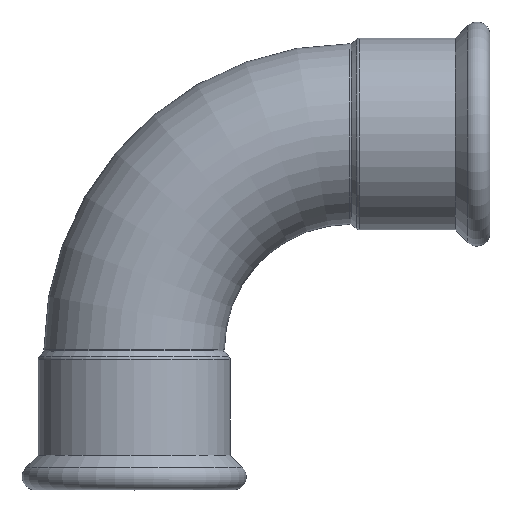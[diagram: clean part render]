
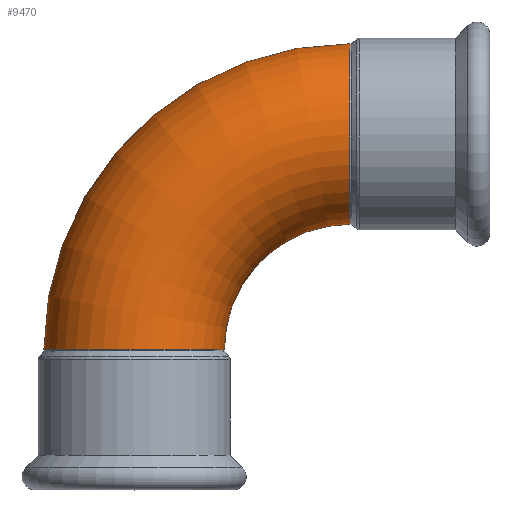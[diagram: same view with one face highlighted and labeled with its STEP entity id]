
A CAD part, top view. The second image highlights one B-rep face of the part: STEP entity #9470.
In plain terms, the highlighted toroidal (fillet/blend) face has major radius 91 mm and minor radius 38.05 mm.
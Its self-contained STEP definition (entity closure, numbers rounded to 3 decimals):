
#850=CARTESIAN_POINT('',(4.,91.,0.));
#860=DIRECTION('',(0.,0.,1.));
#870=DIRECTION('',(-1.,0.,0.));
#880=AXIS2_PLACEMENT_3D('',#850,#860,#870);
#890=TOROIDAL_SURFACE('',#880,91.,38.05);
#900=CARTESIAN_POINT('',(4.,91.,0.));
#910=DIRECTION('',(0.,0.,1.));
#920=DIRECTION('',(-1.,0.,0.));
#930=AXIS2_PLACEMENT_3D('',#900,#910,#920);
#940=CIRCLE('',#930,52.95);
#950=CARTESIAN_POINT('',(-48.95,91.,0.));
#960=VERTEX_POINT('',#950);
#970=CARTESIAN_POINT('',(4.,38.05,0.));
#980=VERTEX_POINT('',#970);
#990=EDGE_CURVE('',#960,#980,#940,.T.);
#1100=CARTESIAN_POINT('',(-125.05,91.,0.));
#1110=VERTEX_POINT('',#1100);
#1140=CARTESIAN_POINT('',(4.,91.,0.));
#1150=DIRECTION('',(0.,0.,1.));
#1160=DIRECTION('',(-1.,0.,0.));
#1170=AXIS2_PLACEMENT_3D('',#1140,#1150,#1160);
#1180=CIRCLE('',#1170,129.05);
#1190=CARTESIAN_POINT('',(4.,-38.05,0.)
);
#1200=VERTEX_POINT('',#1190);
#1210=EDGE_CURVE('',#1110,#1200,#1180,.T.);
#1230=CARTESIAN_POINT('',(4.,0.,0.));
#1240=DIRECTION('',(1.,0.,0.));
#1250=DIRECTION('',(0.,-1.,0.));
#1260=AXIS2_PLACEMENT_3D('',#1230,#1240,#1250);
#1270=CIRCLE('',#1260,38.05);
#8950=EDGE_CURVE('',#980,#1200,#1270,.T.);
#9350=CARTESIAN_POINT('',(-87.,91.,0.));
#9360=DIRECTION('',(0.,-1.,0.));
#9370=DIRECTION('',(-1.,0.,0.));
#9380=AXIS2_PLACEMENT_3D('',#9350,#9360,#9370);
#9390=CIRCLE('',#9380,38.05);
#9400=EDGE_CURVE('',#960,#1110,#9390,.T.);
#9410=ORIENTED_EDGE('',*,*,#9400,.T.);
#9420=ORIENTED_EDGE('',*,*,#990,.F.);
#9430=ORIENTED_EDGE('',*,*,#8950,.F.);
#9440=ORIENTED_EDGE('',*,*,#1210,.T.);
#9450=EDGE_LOOP('',(#9440,#9430,#9420,#9410));
#9460=FACE_OUTER_BOUND('',#9450,.T.);
#9470=ADVANCED_FACE('',(#9460),#890,.T.);
